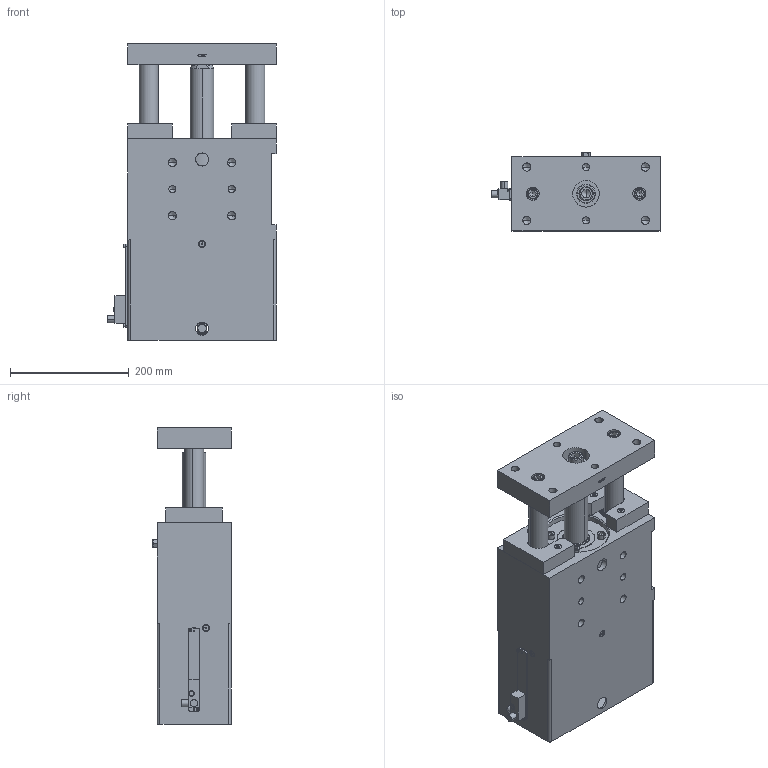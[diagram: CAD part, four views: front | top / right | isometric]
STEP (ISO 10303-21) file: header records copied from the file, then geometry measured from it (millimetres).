
FILE_DESCRIPTION(('CATIA V5 STEP Exchange'),'2;1');
FILE_NAME('G:\Konstruktion\Modelle\Step\MZVD_63_100_120_TUENKERS.stp','2015-12-11T09:17:39+00:00',('none'),('none'),'CATIA Version 5-6 Release 2014 SP1 HF29','CATIA V5 STEP AP203','none');
FILE_SCHEMA(('CONFIG_CONTROL_DESIGN'));
Products named in the file (1): MZVD_63_100_120_TUENKERS
Bounding box: 284 x 131.99 x 500.3 mm (x, y, z)
Volume: 8746167.4 mm3; surface area: 896201.9 mm2
Topology: 4 solids, 45 shells, 2007 faces, 5555 edges, 3721 vertices
Faces by surface type: plane 720, cylinder 451, cone 376, bspline 356, torus 100, sphere 4
Entity records: 74170 total; most frequent: CARTESIAN_POINT 28433, ORIENTED_EDGE 10902, DIRECTION 6596, EDGE_CURVE 5451, VERTEX_POINT 3721, AXIS2_PLACEMENT_3D 3040, EDGE_LOOP 2261, VECTOR 2039
